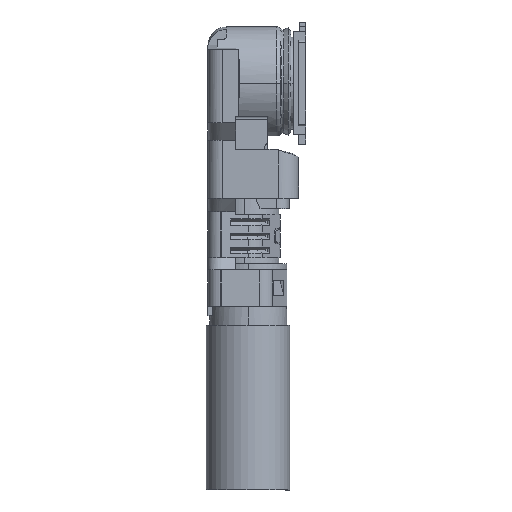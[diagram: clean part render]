
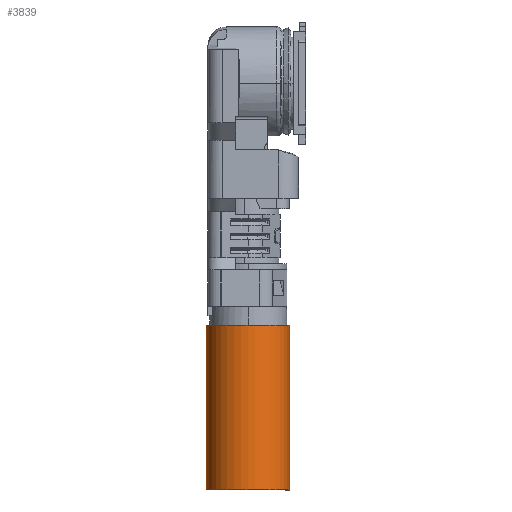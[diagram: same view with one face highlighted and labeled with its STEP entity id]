
A CAD part, left-side view. The second image highlights one B-rep face of the part: STEP entity #3839.
In plain terms, the highlighted cylindrical face has radius 0.685 mm (diameter 1.37 mm), a partial arc.
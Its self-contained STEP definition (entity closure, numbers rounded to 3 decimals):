
#9 = VECTOR ( 'NONE', #9247, 1000. ) ;
#147 = AXIS2_PLACEMENT_3D ( 'NONE', #3062, #10008, #9970 ) ;
#153 = CARTESIAN_POINT ( 'NONE',  ( 0., 1.63, -6.65 ) ) ;
#597 = EDGE_CURVE ( 'NONE', #7097, #7091, #10414, .T. ) ;
#785 = ORIENTED_EDGE ( 'NONE', *, *, #9663, .T. ) ;
#820 = CARTESIAN_POINT ( 'NONE',  ( 0., 1.63, -6.65 ) ) ;
#1172 = FACE_OUTER_BOUND ( 'NONE', #5492, .T. ) ;
#1802 = DIRECTION ( 'NONE',  ( 0., -1., 0. ) ) ;
#2250 = DIRECTION ( 'NONE',  ( 0., 0., -1. ) ) ;
#2257 = CARTESIAN_POINT ( 'NONE',  ( 0., 0.26, -6.65 ) ) ;
#2800 = CIRCLE ( 'NONE', #3542, 0.685 ) ;
#2844 = ORIENTED_EDGE ( 'NONE', *, *, #4554, .T. ) ;
#3062 = CARTESIAN_POINT ( 'NONE',  ( 0., 0.945, -6.65 ) ) ;
#3542 = AXIS2_PLACEMENT_3D ( 'NONE', #7489, #2250, #8372 ) ;
#3839 = ADVANCED_FACE ( 'NONE', ( #1172 ), #7322, .T. ) ;
#4456 = DIRECTION ( 'NONE',  ( 0., 0., 1. ) ) ;
#4533 = DIRECTION ( 'NONE',  ( 0., 0., 1. ) ) ;
#4554 = EDGE_CURVE ( 'NONE', #10592, #9392, #2800, .T. ) ;
#5492 = EDGE_LOOP ( 'NONE', ( #11109, #10511, #785, #2844 ) ) ;
#5685 = LINE ( 'NONE', #153, #8012 ) ;
#6155 = CARTESIAN_POINT ( 'NONE',  ( 0., 0.945, -6.65 ) ) ;
#6666 = EDGE_CURVE ( 'NONE', #7091, #9392, #5685, .T. ) ;
#6718 = LINE ( 'NONE', #2257, #9 ) ;
#6975 = CARTESIAN_POINT ( 'NONE',  ( 0., 0.26, -6.65 ) ) ;
#7091 = VERTEX_POINT ( 'NONE', #820 ) ;
#7097 = VERTEX_POINT ( 'NONE', #6975 ) ;
#7322 = CYLINDRICAL_SURFACE ( 'NONE', #9463, 0.685 ) ;
#7489 = CARTESIAN_POINT ( 'NONE',  ( 0., 0.945, -3.96 ) ) ;
#7923 = CARTESIAN_POINT ( 'NONE',  ( 0., 1.63, -3.96 ) ) ;
#8012 = VECTOR ( 'NONE', #4533, 1000. ) ;
#8372 = DIRECTION ( 'NONE',  ( 0., 1., 0. ) ) ;
#8720 = CARTESIAN_POINT ( 'NONE',  ( 0., 0.26, -3.96 ) ) ;
#9247 = DIRECTION ( 'NONE',  ( 0., 0., 1. ) ) ;
#9392 = VERTEX_POINT ( 'NONE', #7923 ) ;
#9463 = AXIS2_PLACEMENT_3D ( 'NONE', #6155, #4456, #1802 ) ;
#9663 = EDGE_CURVE ( 'NONE', #7097, #10592, #6718, .T. ) ;
#9970 = DIRECTION ( 'NONE',  ( 0., 1., 0. ) ) ;
#10008 = DIRECTION ( 'NONE',  ( 0., 0., -1. ) ) ;
#10414 = CIRCLE ( 'NONE', #147, 0.685 ) ;
#10511 = ORIENTED_EDGE ( 'NONE', *, *, #597, .F. ) ;
#10592 = VERTEX_POINT ( 'NONE', #8720 ) ;
#11109 = ORIENTED_EDGE ( 'NONE', *, *, #6666, .F. ) ;
